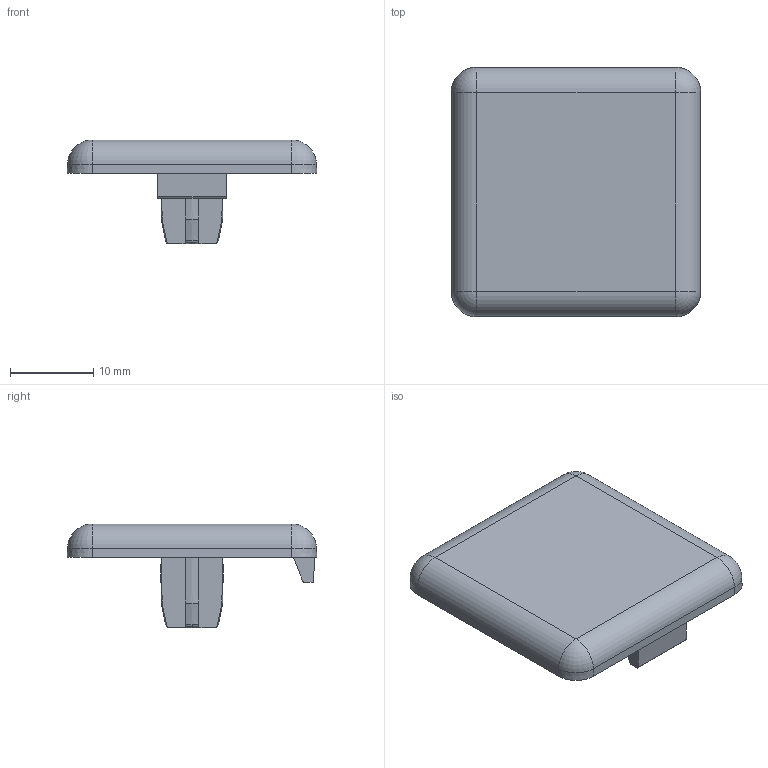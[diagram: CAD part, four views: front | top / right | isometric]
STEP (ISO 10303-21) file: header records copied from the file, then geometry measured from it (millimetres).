
FILE_DESCRIPTION (( 'STEP AP203' ), '1' );
FILE_NAME ('0108AK3030.STEP', '2024-03-07T13:06:46', ( 'Windows-Benutzer' ), ( '' ), 'SwSTEP 2.0', 'SolidWorks 2023', '' );
FILE_SCHEMA (( 'CONFIG_CONTROL_DESIGN' ));
Length unit declared in the file: millimetre
Products named in the file (1): 0108AK3030
Bounding box: 30 x 30 x 12.5 mm (x, y, z)
Volume: 2920.1 mm3; surface area: 2507.6 mm2
Topology: 1 solids, 1 shells, 79 faces, 203 edges, 124 vertices
Faces by surface type: plane 31, cylinder 20, cone 14, bspline 10, torus 4
Entity records: 2587 total; most frequent: CARTESIAN_POINT 728, ORIENTED_EDGE 398, DIRECTION 337, EDGE_CURVE 199, VERTEX_POINT 124, AXIS2_PLACEMENT_3D 121, VECTOR 95, LINE 95
